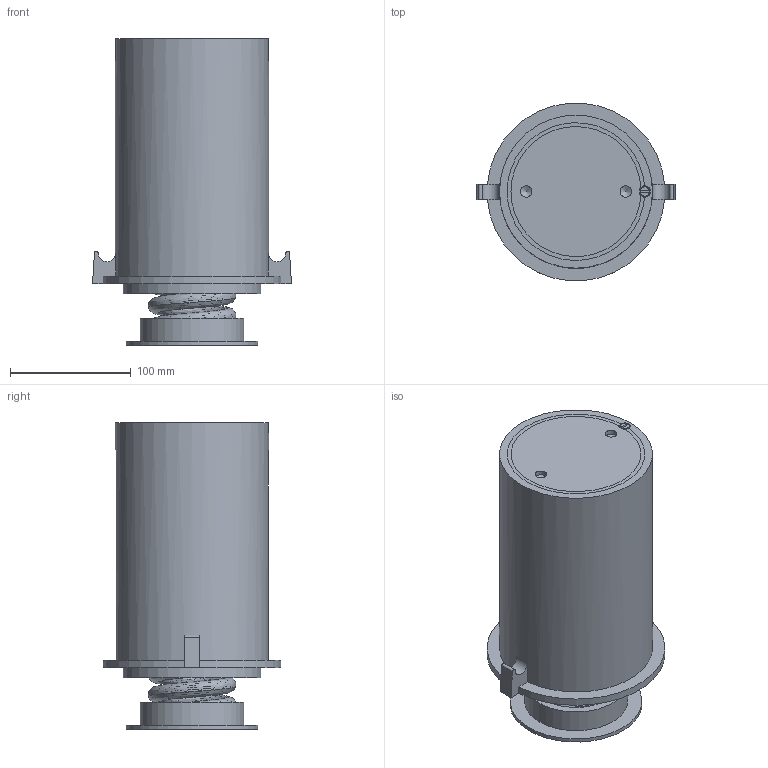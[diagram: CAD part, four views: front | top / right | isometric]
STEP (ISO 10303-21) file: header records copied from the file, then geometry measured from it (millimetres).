
FILE_DESCRIPTION(/* description */ (''),/* implementation_level */ '2;1');
FILE_NAME(/* name */ '\\Mleuckthor2\cad-proe_solids\WEBSITE FILES 05.22.13\STEP\FS\FSC-8 with 2inchAirGap.stp',/* time_stamp */ '2016-03-11T18:38:38-05:00',/* author */ ('rramoutar'),/* organization */ ('Mason Industries Inc.'),/* preprocessor_version */ 'ST-DEVELOPER v15.6',/* originating_system */ 'Autodesk Inventor 2015',/* authorisation */ '');
FILE_SCHEMA (('AUTOMOTIVE_DESIGN { 1 0 10303 214 3 1 1 }'));
Length unit declared in the file: inch
Products named in the file (1): FS-C 8 IN TALL WOS ASSY
Bounding box: 165.1 x 147.07 x 254 mm (x, y, z)
Volume: 1269487.4 mm3; surface area: 390511 mm2
Topology: 7 solids, 7 shells, 98 faces, 235 edges, 154 vertices
Faces by surface type: plane 41, cylinder 27, bspline 22, cone 6, sphere 2
Full cylindrical faces by diameter (mm): 9.525 x3, 15.875 x2, 73.025 x1, 76.2 x4, 85.725 x1, 101.6 x1, 107.95 x1, 109.537 x1, 114.3 x1, 127 x1
Entity records: 12491 total; most frequent: CARTESIAN_POINT 10329, ORIENTED_EDGE 414, DIRECTION 372, EDGE_CURVE 207, VERTEX_POINT 147, AXIS2_PLACEMENT_3D 142, EDGE_LOOP 132, FACE_OUTER_BOUND 98
